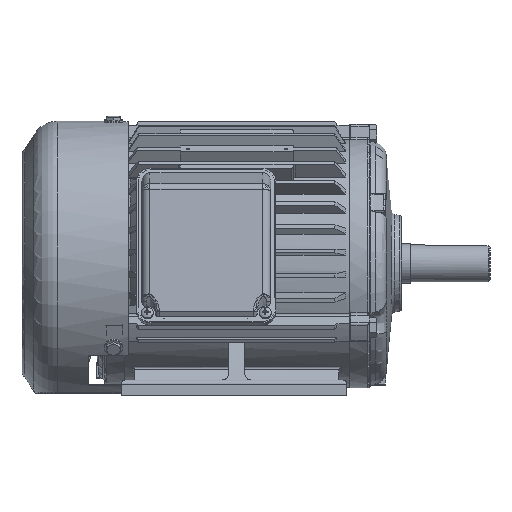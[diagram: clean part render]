
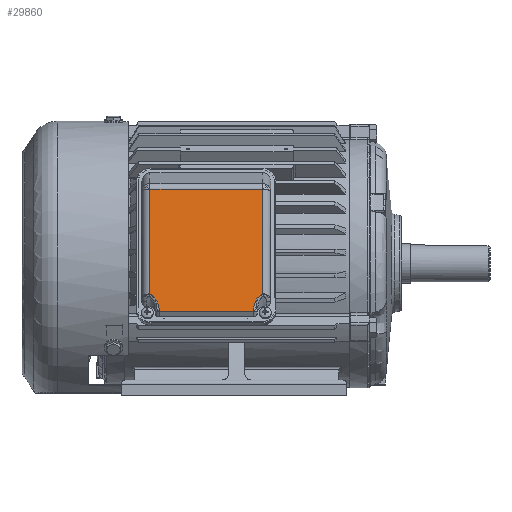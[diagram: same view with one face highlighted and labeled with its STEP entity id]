
A CAD part, left-side view. The second image highlights one B-rep face of the part: STEP entity #29860.
In plain terms, the highlighted planar face has unit normal (-0.995, 0, 0.103) as drawn and (0, 0.936, -0.353) by its records, which use the part's own axes.
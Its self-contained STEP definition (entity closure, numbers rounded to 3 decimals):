
#2131=B_SPLINE_CURVE_WITH_KNOTS('',3,(#62592,#62593,#62594,#62595,#62596,
#62597,#62598),.UNSPECIFIED.,.F.,.F.,(4,1,1,1,4),(0.,0.004,
0.008,0.012,0.016),
 .UNSPECIFIED.);
#2132=B_SPLINE_CURVE_WITH_KNOTS('',3,(#62606,#62607,#62608,#62609,#62610,
#62611,#62612),.UNSPECIFIED.,.F.,.F.,(4,1,1,1,4),(0.,0.004,
0.008,0.012,0.016),.UNSPECIFIED.);
#3356=LINE('',#62589,#4736);
#3357=LINE('',#62600,#4737);
#3358=LINE('',#62602,#4738);
#3359=LINE('',#62604,#4739);
#4736=VECTOR('',#39432,1000.);
#4737=VECTOR('',#39433,1000.);
#4738=VECTOR('',#39434,1000.);
#4739=VECTOR('',#39435,1000.);
#11467=ORIENTED_EDGE('',*,*,#15899,.T.);
#11468=ORIENTED_EDGE('',*,*,#15900,.T.);
#11469=ORIENTED_EDGE('',*,*,#15901,.T.);
#11470=ORIENTED_EDGE('',*,*,#15902,.T.);
#11471=ORIENTED_EDGE('',*,*,#15903,.T.);
#11472=ORIENTED_EDGE('',*,*,#15904,.T.);
#15899=EDGE_CURVE('',#18586,#18587,#3356,.T.);
#15900=EDGE_CURVE('',#18587,#18588,#2131,.T.);
#15901=EDGE_CURVE('',#18588,#18589,#3357,.T.);
#15902=EDGE_CURVE('',#18589,#18590,#3358,.F.);
#15903=EDGE_CURVE('',#18590,#18591,#3359,.T.);
#15904=EDGE_CURVE('',#18591,#18586,#2132,.T.);
#18586=VERTEX_POINT('',#62590);
#18587=VERTEX_POINT('',#62591);
#18588=VERTEX_POINT('',#62599);
#18589=VERTEX_POINT('',#62601);
#18590=VERTEX_POINT('',#62603);
#18591=VERTEX_POINT('',#62605);
#21996=EDGE_LOOP('',(#11467,#11468,#11469,#11470,#11471,#11472));
#23908=FACE_BOUND('',#21996,.T.);
#24706=PLANE('',#32766);
#29860=ADVANCED_FACE('',(#23908),#24706,.T.);
#32766=AXIS2_PLACEMENT_3D('',#62588,#39430,#39431);
#39430=DIRECTION('',(0.,0.936,-0.353));
#39431=DIRECTION('',(0.,0.353,0.936));
#39432=DIRECTION('',(-1.,0.,0.));
#39433=DIRECTION('',(0.,0.353,0.936));
#39434=DIRECTION('',(-1.,0.,0.));
#39435=DIRECTION('',(0.,-0.353,-0.936));
#62588=CARTESIAN_POINT('',(47.5,8.,-57.7));
#62589=CARTESIAN_POINT('',(47.5,8.,-57.7));
#62590=CARTESIAN_POINT('',(35.501,8.,-57.7));
#62591=CARTESIAN_POINT('',(-35.501,8.,-57.7));
#62592=CARTESIAN_POINT('',(-35.501,8.,-57.7));
#62593=CARTESIAN_POINT('',(-35.491,8.47,-56.453));
#62594=CARTESIAN_POINT('',(-35.732,9.404,-53.979));
#62595=CARTESIAN_POINT('',(-36.902,10.752,-50.405));
#62596=CARTESIAN_POINT('',(-39.032,11.959,-47.203));
#62597=CARTESIAN_POINT('',(-41.225,12.525,-45.702));
#62598=CARTESIAN_POINT('',(-42.5,12.678,-45.299));
#62599=CARTESIAN_POINT('',(-42.5,12.678,-45.299));
#62600=CARTESIAN_POINT('',(-42.5,40.678,28.935));
#62601=CARTESIAN_POINT('',(-42.5,40.678,28.935));
#62602=CARTESIAN_POINT('',(47.5,40.678,28.935));
#62603=CARTESIAN_POINT('',(42.5,40.678,28.935));
#62604=CARTESIAN_POINT('',(42.5,11.685,-47.932));
#62605=CARTESIAN_POINT('',(42.5,12.678,-45.299));
#62606=CARTESIAN_POINT('',(42.5,12.678,-45.299));
#62607=CARTESIAN_POINT('',(41.225,12.525,-45.702));
#62608=CARTESIAN_POINT('',(39.032,11.959,-47.203));
#62609=CARTESIAN_POINT('',(36.902,10.752,-50.405));
#62610=CARTESIAN_POINT('',(35.732,9.404,-53.979));
#62611=CARTESIAN_POINT('',(35.491,8.47,-56.453));
#62612=CARTESIAN_POINT('',(35.501,8.,-57.7));
